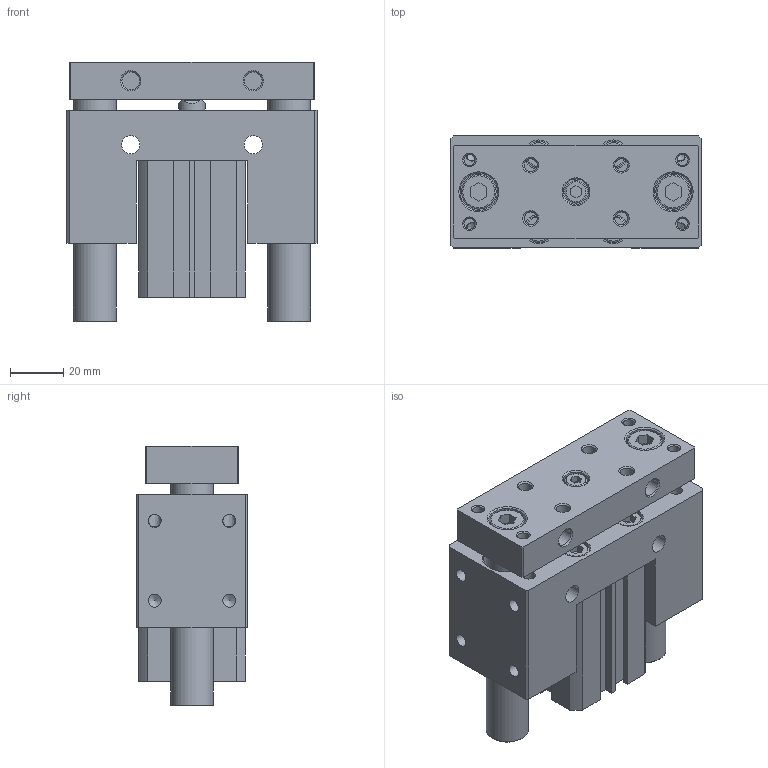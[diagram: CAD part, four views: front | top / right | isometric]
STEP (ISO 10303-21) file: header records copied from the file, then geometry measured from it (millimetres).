
FILE_DESCRIPTION((''),'2;1');
FILE_NAME('I:\3D電子目錄\氣缸\JCB\JCB\JCB25\JCB25x30.stp','2007-08-21T19:18:23',('Administrator'),(''),'Autodesk Inventor 11','Autodesk Inventor 11','');
FILE_SCHEMA(('AUTOMOTIVE_DESIGN { 1 0 10303 214 1 1 1 1 }'));
Length unit declared in the file: millimetre
Products named in the file (1): JCB25
Bounding box: 94 x 42 x 97.5 mm (x, y, z)
Volume: 248270.5 mm3; surface area: 73699.6 mm2
Topology: 5 solids, 5 shells, 323 faces, 740 edges, 483 vertices
Faces by surface type: plane 172, bspline 61, cylinder 47, cone 35, torus 8
Full cylindrical faces by diameter (mm): 1.5 x2, 4.917 x4, 5.1 x4, 6.647 x2, 8 x8, 8.5 x1, 10 x5, 11 x1, 13 x2, 16 x2, 17 x2, 18 x2, 28 x4, 29.4 x2
Entity records: 8980 total; most frequent: CARTESIAN_POINT 2309, DIRECTION 1332, ORIENTED_EDGE 1160, EDGE_CURVE 580, EDGE_LOOP 544, AXIS2_PLACEMENT_3D 493, VERTEX_POINT 454, VECTOR 346
